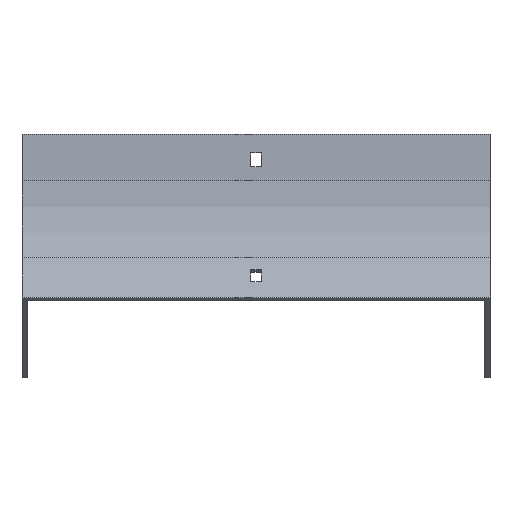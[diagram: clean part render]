
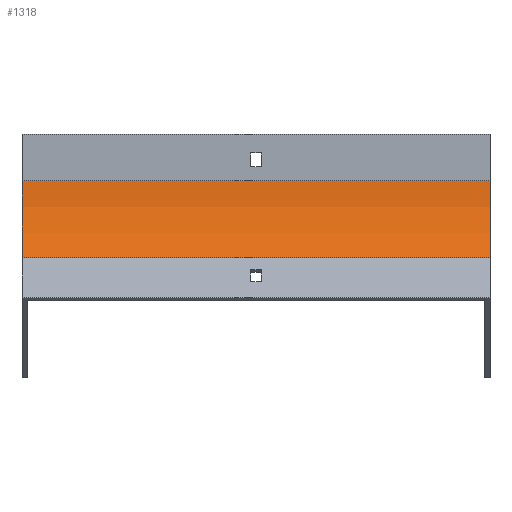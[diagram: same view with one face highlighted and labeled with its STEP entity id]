
A CAD part, front view. The second image highlights one B-rep face of the part: STEP entity #1318.
In plain terms, the highlighted cylindrical face has radius 100 mm (diameter 200 mm), a partial arc.
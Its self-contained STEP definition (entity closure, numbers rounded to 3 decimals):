
#28 = CARTESIAN_POINT ( 'NONE',  ( 152., -100., -30. ) ) ;
#38 = DIRECTION ( 'NONE',  ( 0., 0., 1. ) ) ;
#46 = AXIS2_PLACEMENT_3D ( 'NONE', #1903, #1787, #445 ) ;
#55 = CIRCLE ( 'NONE', #1062, 100. ) ;
#64 = VERTEX_POINT ( 'NONE', #1873 ) ;
#136 = VERTEX_POINT ( 'NONE', #1420 ) ;
#146 = VECTOR ( 'NONE', #1747, 1000. ) ;
#225 = EDGE_CURVE ( 'NONE', #64, #136, #55, .T. ) ;
#307 = EDGE_LOOP ( 'NONE', ( #1824, #790, #378, #1278 ) ) ;
#378 = ORIENTED_EDGE ( 'NONE', *, *, #992, .F. ) ;
#383 = CARTESIAN_POINT ( 'NONE',  ( 152., 0., -30. ) ) ;
#388 = CIRCLE ( 'NONE', #1270, 100. ) ;
#445 = DIRECTION ( 'NONE',  ( 0., 0., 1. ) ) ;
#638 = DIRECTION ( 'NONE',  ( -1., 0., 0. ) ) ;
#644 = VERTEX_POINT ( 'NONE', #850 ) ;
#686 = EDGE_CURVE ( 'NONE', #1108, #64, #1248, .T. ) ;
#790 = ORIENTED_EDGE ( 'NONE', *, *, #1602, .F. ) ;
#850 = CARTESIAN_POINT ( 'NONE',  ( 152., -13.397, -80. ) ) ;
#962 = DIRECTION ( 'NONE',  ( -1., 0., 0. ) ) ;
#978 = CARTESIAN_POINT ( 'NONE',  ( 152., 0., -30. ) ) ;
#988 = DIRECTION ( 'NONE',  ( -1., 0., 0. ) ) ;
#992 = EDGE_CURVE ( 'NONE', #1108, #644, #388, .T. ) ;
#1000 = LINE ( 'NONE', #1286, #146 ) ;
#1062 = AXIS2_PLACEMENT_3D ( 'NONE', #1112, #962, #1711 ) ;
#1108 = VERTEX_POINT ( 'NONE', #383 ) ;
#1112 = CARTESIAN_POINT ( 'NONE',  ( -152., -100., -30. ) ) ;
#1248 = LINE ( 'NONE', #978, #1504 ) ;
#1270 = AXIS2_PLACEMENT_3D ( 'NONE', #28, #638, #38 ) ;
#1278 = ORIENTED_EDGE ( 'NONE', *, *, #686, .T. ) ;
#1286 = CARTESIAN_POINT ( 'NONE',  ( 152., -13.397, -80. ) ) ;
#1318 = ADVANCED_FACE ( 'NONE', ( #1757 ), #1465, .F. ) ;
#1420 = CARTESIAN_POINT ( 'NONE',  ( -152., -13.397, -80. ) ) ;
#1465 = CYLINDRICAL_SURFACE ( 'NONE', #46, 100. ) ;
#1504 = VECTOR ( 'NONE', #988, 1000. ) ;
#1602 = EDGE_CURVE ( 'NONE', #644, #136, #1000, .T. ) ;
#1711 = DIRECTION ( 'NONE',  ( 0., 0., 1. ) ) ;
#1747 = DIRECTION ( 'NONE',  ( -1., 0., 0. ) ) ;
#1757 = FACE_OUTER_BOUND ( 'NONE', #307, .T. ) ;
#1787 = DIRECTION ( 'NONE',  ( -1., 0., 0. ) ) ;
#1824 = ORIENTED_EDGE ( 'NONE', *, *, #225, .T. ) ;
#1873 = CARTESIAN_POINT ( 'NONE',  ( -152., 0., -30. ) ) ;
#1903 = CARTESIAN_POINT ( 'NONE',  ( 152., -100., -30. ) ) ;
